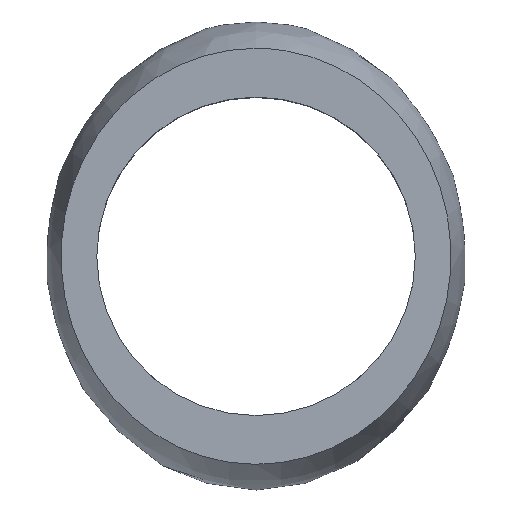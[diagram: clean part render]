
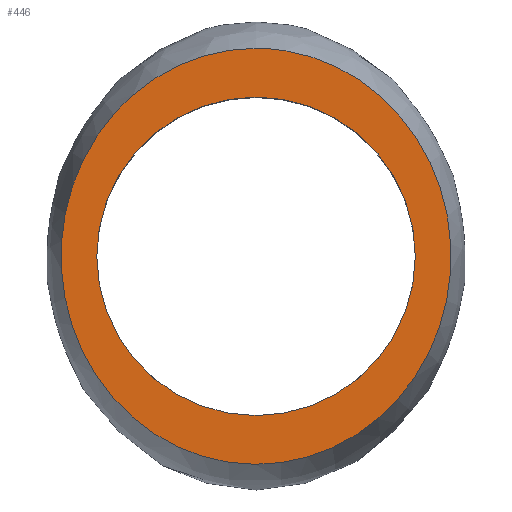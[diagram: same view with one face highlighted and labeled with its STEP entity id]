
A CAD part, top view. The second image highlights one B-rep face of the part: STEP entity #446.
In plain terms, the highlighted planar face has unit normal (0, 0, 1).
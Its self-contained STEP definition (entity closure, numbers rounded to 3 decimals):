
#24 = VERTEX_POINT('',#25);
#25 = CARTESIAN_POINT('',(0.,32.,7.));
#32 = B_SPLINE_SURFACE_WITH_KNOTS('',14,2,(
    (#33,#34,#35)
    ,(#36,#37,#38)
    ,(#39,#40,#41)
    ,(#42,#43,#44)
    ,(#45,#46,#47)
    ,(#48,#49,#50)
    ,(#51,#52,#53)
    ,(#54,#55,#56)
    ,(#57,#58,#59)
    ,(#60,#61,#62)
    ,(#63,#64,#65)
    ,(#66,#67,#68)
    ,(#69,#70,#71)
    ,(#72,#73,#74)
    ,(#75,#76,#77
    )),.UNSPECIFIED.,.T.,.F.,.F.,(15,15),(3,3),(0.,1.),(0.,1.),
  .PIECEWISE_BEZIER_KNOTS.);
#33 = CARTESIAN_POINT('',(0.,28.,-33.));
#34 = CARTESIAN_POINT('',(0.,41.834,
    -14.942));
#35 = CARTESIAN_POINT('',(0.,32.,7.));
#36 = CARTESIAN_POINT('',(-10.771,28.,-33.));
#37 = CARTESIAN_POINT('',(-16.485,41.834,-14.942
    ));
#38 = CARTESIAN_POINT('',(-13.464,32.,7.));
#39 = CARTESIAN_POINT('',(-21.542,21.926,-33.));
#40 = CARTESIAN_POINT('',(-32.971,32.76,
    -14.942));
#41 = CARTESIAN_POINT('',(-26.928,25.059,7.));
#42 = CARTESIAN_POINT('',(-29.588,9.779,-33.));
#43 = CARTESIAN_POINT('',(-45.284,14.611,
    -14.942));
#44 = CARTESIAN_POINT('',(-36.985,11.176,7.));
#45 = CARTESIAN_POINT('',(-32.182,-6.625,-33.));
#46 = CARTESIAN_POINT('',(-49.254,-9.898,-14.942
    ));
#47 = CARTESIAN_POINT('',(-40.227,-7.572,7.));
#48 = CARTESIAN_POINT('',(-27.575,-23.654,-33.));
#49 = CARTESIAN_POINT('',(-42.205,-35.34,-14.942)
  );
#50 = CARTESIAN_POINT('',(-34.469,-27.033,7.));
#51 = CARTESIAN_POINT('',(-15.981,-36.653,-33.));
#52 = CARTESIAN_POINT('',(-24.459,-54.763,
    -14.942));
#53 = CARTESIAN_POINT('',(-19.977,-41.889,7.));
#54 = CARTESIAN_POINT('',(0.,-41.547,-33.));
#55 = CARTESIAN_POINT('',(0.,-62.075,
    -14.942));
#56 = CARTESIAN_POINT('',(0.,-47.483,7.));
#57 = CARTESIAN_POINT('',(15.981,-36.653,-33.));
#58 = CARTESIAN_POINT('',(24.459,-54.763,
    -14.942));
#59 = CARTESIAN_POINT('',(19.977,-41.889,7.));
#60 = CARTESIAN_POINT('',(27.575,-23.654,-33.));
#61 = CARTESIAN_POINT('',(42.205,-35.34,-14.942
    ));
#62 = CARTESIAN_POINT('',(34.469,-27.033,7.));
#63 = CARTESIAN_POINT('',(32.182,-6.625,-33.));
#64 = CARTESIAN_POINT('',(49.254,-9.898,
    -14.942));
#65 = CARTESIAN_POINT('',(40.227,-7.572,7.));
#66 = CARTESIAN_POINT('',(29.588,9.779,-33.));
#67 = CARTESIAN_POINT('',(45.284,14.611,
    -14.942));
#68 = CARTESIAN_POINT('',(36.985,11.176,7.));
#69 = CARTESIAN_POINT('',(21.542,21.926,-33.));
#70 = CARTESIAN_POINT('',(32.971,32.76,
    -14.942));
#71 = CARTESIAN_POINT('',(26.928,25.059,7.));
#72 = CARTESIAN_POINT('',(10.771,28.,-33.));
#73 = CARTESIAN_POINT('',(16.485,41.834,
    -14.942));
#74 = CARTESIAN_POINT('',(13.464,32.,7.));
#75 = CARTESIAN_POINT('',(0.,28.,-33.));
#76 = CARTESIAN_POINT('',(0.,41.834,
    -14.942));
#77 = CARTESIAN_POINT('',(0.,32.,7.));
#194 = CYLINDRICAL_SURFACE('',#195,24.5);
#195 = AXIS2_PLACEMENT_3D('',#196,#197,#198);
#196 = CARTESIAN_POINT('',(0.,0.,-40.));
#197 = DIRECTION('',(0.,0.,1.));
#198 = DIRECTION('',(1.,0.,-0.));
#397 = EDGE_CURVE('',#24,#24,#398,.T.);
#398 = SURFACE_CURVE('',#399,(#415,#422),.PCURVE_S1.);
#399 = B_SPLINE_CURVE_WITH_KNOTS('',14,(#400,#401,#402,#403,#404,#405,
    #406,#407,#408,#409,#410,#411,#412,#413,#414),.UNSPECIFIED.,.T.,.F.,
  (15,15),(0.,1.),.PIECEWISE_BEZIER_KNOTS.);
#400 = CARTESIAN_POINT('',(0.,32.,7.));
#401 = CARTESIAN_POINT('',(-13.464,32.,7.));
#402 = CARTESIAN_POINT('',(-26.928,25.059,7.));
#403 = CARTESIAN_POINT('',(-36.985,11.176,7.));
#404 = CARTESIAN_POINT('',(-40.227,-7.572,7.));
#405 = CARTESIAN_POINT('',(-34.469,-27.033,7.));
#406 = CARTESIAN_POINT('',(-19.977,-41.889,7.));
#407 = CARTESIAN_POINT('',(0.,-47.483,7.));
#408 = CARTESIAN_POINT('',(19.977,-41.889,7.));
#409 = CARTESIAN_POINT('',(34.469,-27.033,7.));
#410 = CARTESIAN_POINT('',(40.227,-7.572,7.));
#411 = CARTESIAN_POINT('',(36.985,11.176,7.));
#412 = CARTESIAN_POINT('',(26.928,25.059,7.));
#413 = CARTESIAN_POINT('',(13.464,32.,7.));
#414 = CARTESIAN_POINT('',(0.,32.,7.));
#415 = PCURVE('',#32,#416);
#416 = DEFINITIONAL_REPRESENTATION('',(#417),#421);
#417 = LINE('',#418,#419);
#418 = CARTESIAN_POINT('',(0.,1.));
#419 = VECTOR('',#420,1.);
#420 = DIRECTION('',(1.,0.));
#421 = ( GEOMETRIC_REPRESENTATION_CONTEXT(2) 
PARAMETRIC_REPRESENTATION_CONTEXT() REPRESENTATION_CONTEXT('2D SPACE',''
  ) );
#422 = PCURVE('',#423,#428);
#423 = PLANE('',#424);
#424 = AXIS2_PLACEMENT_3D('',#425,#426,#427);
#425 = CARTESIAN_POINT('',(0.,32.,7.));
#426 = DIRECTION('',(0.,0.,-1.));
#427 = DIRECTION('',(0.,-1.,-0.));
#428 = DEFINITIONAL_REPRESENTATION('',(#429),#445);
#429 = B_SPLINE_CURVE_WITH_KNOTS('',14,(#430,#431,#432,#433,#434,#435,
    #436,#437,#438,#439,#440,#441,#442,#443,#444),.UNSPECIFIED.,.T.,.F.,
  (15,15),(0.,1.),.PIECEWISE_BEZIER_KNOTS.);
#430 = CARTESIAN_POINT('',(0.,0.));
#431 = CARTESIAN_POINT('',(0.,13.464));
#432 = CARTESIAN_POINT('',(6.941,26.928));
#433 = CARTESIAN_POINT('',(20.824,36.985));
#434 = CARTESIAN_POINT('',(39.572,40.227));
#435 = CARTESIAN_POINT('',(59.033,34.469));
#436 = CARTESIAN_POINT('',(73.889,19.977));
#437 = CARTESIAN_POINT('',(79.483,0.));
#438 = CARTESIAN_POINT('',(73.889,-19.977));
#439 = CARTESIAN_POINT('',(59.033,-34.469));
#440 = CARTESIAN_POINT('',(39.572,-40.227));
#441 = CARTESIAN_POINT('',(20.824,-36.985));
#442 = CARTESIAN_POINT('',(6.941,-26.928));
#443 = CARTESIAN_POINT('',(0.,-13.464));
#444 = CARTESIAN_POINT('',(0.,0.));
#445 = ( GEOMETRIC_REPRESENTATION_CONTEXT(2) 
PARAMETRIC_REPRESENTATION_CONTEXT() REPRESENTATION_CONTEXT('2D SPACE',''
  ) );
#446 = ADVANCED_FACE('',(#447,#450),#423,.F.);
#447 = FACE_BOUND('',#448,.F.);
#448 = EDGE_LOOP('',(#449));
#449 = ORIENTED_EDGE('',*,*,#397,.F.);
#450 = FACE_BOUND('',#451,.F.);
#451 = EDGE_LOOP('',(#452));
#452 = ORIENTED_EDGE('',*,*,#453,.T.);
#453 = EDGE_CURVE('',#454,#454,#456,.T.);
#454 = VERTEX_POINT('',#455);
#455 = CARTESIAN_POINT('',(24.5,0.,7.));
#456 = SURFACE_CURVE('',#457,(#462,#473),.PCURVE_S1.);
#457 = CIRCLE('',#458,24.5);
#458 = AXIS2_PLACEMENT_3D('',#459,#460,#461);
#459 = CARTESIAN_POINT('',(0.,0.,7.));
#460 = DIRECTION('',(0.,0.,1.));
#461 = DIRECTION('',(1.,0.,-0.));
#462 = PCURVE('',#423,#463);
#463 = DEFINITIONAL_REPRESENTATION('',(#464),#472);
#464 = ( BOUNDED_CURVE() B_SPLINE_CURVE(2,(#465,#466,#467,#468,#469,#470
,#471),.UNSPECIFIED.,.T.,.F.) B_SPLINE_CURVE_WITH_KNOTS((1,2,2,2,2,1),(
    -2.094,0.,2.094,4.189,6.283,
8.378),.UNSPECIFIED.) CURVE() GEOMETRIC_REPRESENTATION_ITEM() 
RATIONAL_B_SPLINE_CURVE((1.,0.5,1.,0.5,1.,0.5,1.)) REPRESENTATION_ITEM(
  '') );
#465 = CARTESIAN_POINT('',(32.,-24.5));
#466 = CARTESIAN_POINT('',(-10.435,-24.5));
#467 = CARTESIAN_POINT('',(10.782,12.25));
#468 = CARTESIAN_POINT('',(32.,49.));
#469 = CARTESIAN_POINT('',(53.218,12.25));
#470 = CARTESIAN_POINT('',(74.435,-24.5));
#471 = CARTESIAN_POINT('',(32.,-24.5));
#472 = ( GEOMETRIC_REPRESENTATION_CONTEXT(2) 
PARAMETRIC_REPRESENTATION_CONTEXT() REPRESENTATION_CONTEXT('2D SPACE',''
  ) );
#473 = PCURVE('',#194,#474);
#474 = DEFINITIONAL_REPRESENTATION('',(#475),#479);
#475 = LINE('',#476,#477);
#476 = CARTESIAN_POINT('',(0.,47.));
#477 = VECTOR('',#478,1.);
#478 = DIRECTION('',(1.,0.));
#479 = ( GEOMETRIC_REPRESENTATION_CONTEXT(2) 
PARAMETRIC_REPRESENTATION_CONTEXT() REPRESENTATION_CONTEXT('2D SPACE',''
  ) );
